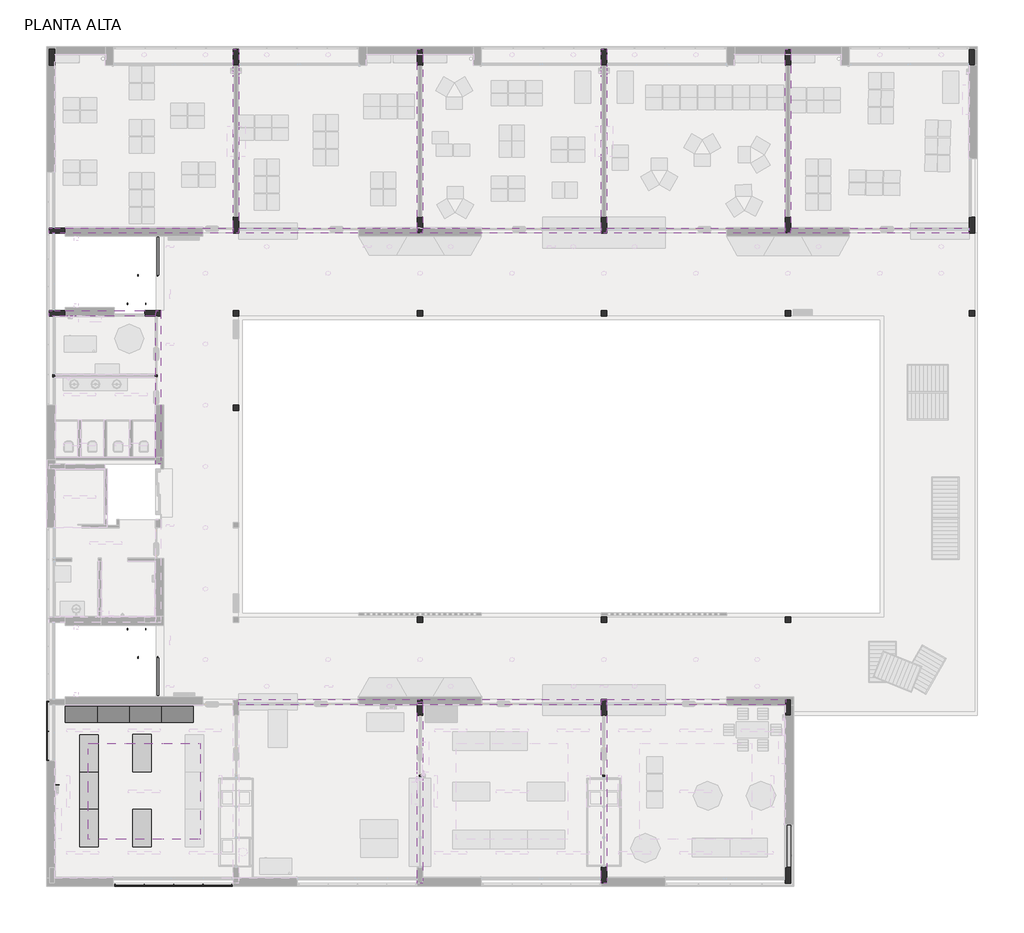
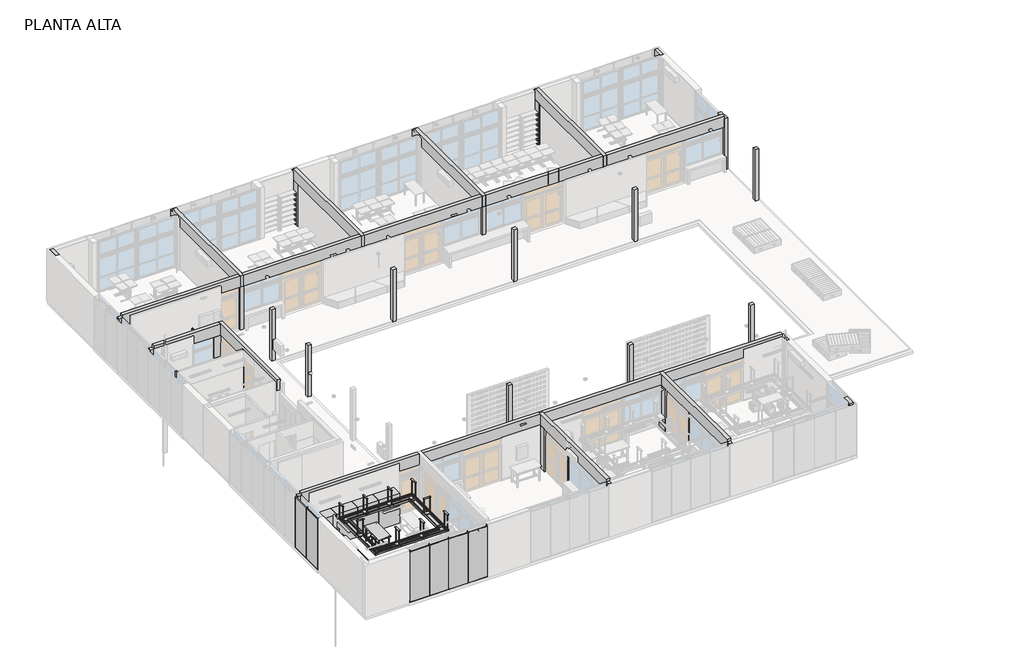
# One storey, part 9 of 14: 32 columns, 16 beams, 13 furniture elements, 8 proxies, 2 railings.
"""IFC4 building model written with IfcOpenShell, lengths in millimetres."""

from ifc_helpers import new_model, si_unit, frame, origin, place, context, project, spatial, polyline, outline, extrude, faceted_brep, transform, mapped, element, save
from components import building_element_proxy_21797a3b, building_element_proxy_06157dc2, building_element_proxy_bfe1e13b, furniture_e09c71f7, furniture_beb05811, furniture_b563ccbc, furniture_93ab70db, furniture_eb17cc9a, furniture_32bd7863, furniture_f4723014, railing_a982a51b, railing_fe686932

model = new_model("IFC4")

# Units and contexts
model_context = context("Model", 3, world=origin())
ifc_project = project(units=[si_unit("LENGTHUNIT", "METRE", prefix="MILLI")], contexts=[model_context])

# Site, building, storey
site = spatial("IfcSite", under=ifc_project)
building = spatial("IfcBuilding", under=site)
storey = spatial("IfcBuildingStorey", under=building, Name="PLANTA ALTA", Elevation=3310.0)

# Beams
placement = place(None, origin())
element("IfcBeam", 1, ObjectType="ARES-I-HA-Viga rectangular-PET : Viga-20x66cm-PET", at=placement, inside=storey, context=model_context, shape_type="Brep", body=[
    faceted_brep([(17188.7173694, 7107.5304035, 6570.0), (16988.7173694, 7107.5304035, 6570.0), (16988.7173694, 7020.2304035, 6570.0), (16988.7173694, 4560.2304035, 6570.0), (16988.7173694, 4440.2304035, 6570.0), (16988.7173694, 4240.2304035, 6570.0), (16988.7173694, 4120.2304035, 6570.0), (16988.7173694, 520.2304035, 6570.0), (17188.7173694, 520.2304035, 6570.0), (17188.7173694, 4120.2304035, 6570.0), (17188.7173694, 4240.2304035, 6570.0), (17188.7173694, 4440.2304035, 6570.0), (17188.7173694, 4560.2304035, 6570.0), (17188.7173694, 7020.2304035, 6570.0), (16988.7173694, 7107.5304035, 5910.0), (16988.7173694, 7020.2304035, 5910.0), (16988.7173694, 320.2304035, 5910.0), (16988.7173694, 320.2304035, 6410.0), (16988.7173694, 520.2304035, 6410.0), (17188.7173694, 7107.5304035, 5910.0), (17188.7173694, 7020.2304035, 5910.0), (17188.7173694, 320.2304035, 5910.0), (17188.7173694, 520.2304035, 6410.0), (17188.7173694, 320.2304035, 6410.0)], [[[0, 1, 2, 3, 4, 5, 6, 7, 8, 9, 10, 11, 12, 13]], [[14, 15, 16, 17, 18, 7, 6, 5, 4, 3, 2, 1]], [[16, 15, 14, 19, 20, 21]], [[21, 20, 19, 0, 13, 12, 11, 10, 9, 8, 22, 23]], [[0, 19, 14, 1]], [[16, 21, 23, 17]], [[22, 18, 17, 23]], [[18, 22, 8, 7]]]),
])
element("IfcBeam", 2, ObjectType="ARES-I-HA-Viga rectangular-PET : Viga-20x66cm-PET", at=placement, inside=storey, context=model_context, shape_type="Brep", body=[
    faceted_brep([(24088.7173694, 7200.2304035, 6570.0), (23888.7173694, 7200.2304035, 6570.0), (23888.7173694, 7020.2304035, 6570.0), (23888.7173694, 520.2304035, 6570.0), (24088.7173694, 520.2304035, 6570.0), (24088.7173694, 7020.2304035, 6570.0), (23888.7173694, 7200.2304035, 5910.0), (23888.7173694, 7020.2304035, 5910.0), (23888.7173694, 6620.2304035, 5910.0), (23888.7173694, 320.2304035, 5910.0), (23888.7173694, 320.2304035, 6410.0), (23888.7173694, 520.2304035, 6410.0), (24088.7173694, 7200.2304035, 5910.0), (24088.7173694, 7020.2304035, 5910.0), (24088.7173694, 6620.2304035, 5910.0), (24088.7173694, 320.2304035, 5910.0), (24088.7173694, 520.2304035, 6410.0), (24088.7173694, 320.2304035, 6410.0)], [[[0, 1, 2, 3, 4, 5]], [[6, 7, 8, 9, 10, 11, 3, 2, 1]], [[9, 8, 7, 6, 12, 13, 14, 15]], [[15, 14, 13, 12, 0, 5, 4, 16, 17]], [[9, 15, 17, 10]], [[0, 12, 6, 1]], [[16, 11, 10, 17]], [[11, 16, 4, 3]]]),
])
element("IfcBeam", 3, ObjectType="ARES-I-HA-Viga rectangular-PET : Viga-20x66cm-PET", at=placement, inside=storey, context=model_context, shape_type="Brep", body=[
    faceted_brep([(10088.7173694, 24720.2304035, 6570.0), (10288.7173694, 24720.2304035, 6570.0), (10288.7173694, 24920.2304035, 6570.0), (10288.7173694, 30600.2304035, 6570.0), (10288.7173694, 30720.2304035, 6570.0), (10288.7173694, 30920.2304035, 6570.0), (10288.7173694, 31040.2304035, 6570.0), (10288.7173694, 31420.2304035, 6570.0), (10088.7173694, 31420.2304035, 6570.0), (10088.7173694, 31040.2304035, 6570.0), (10088.7173694, 30920.2304035, 6570.0), (10088.7173694, 30720.2304035, 6570.0), (10088.7173694, 30600.2304035, 6570.0), (10088.7173694, 24920.2304035, 6570.0), (10088.7173694, 31620.2304035, 5910.0), (10088.7173694, 24920.2304035, 5910.0), (10088.7173694, 24720.2304035, 5910.0), (10088.7173694, 24720.2304035, 6410.0), (10088.7173694, 31420.2304035, 6410.0), (10088.7173694, 31430.2304035, 6410.0), (10088.7173694, 31620.2304035, 6410.0), (10288.7173694, 31620.2304035, 5910.0), (10288.7173694, 24920.2304035, 5910.0), (10288.7173694, 24720.2304035, 5910.0), (10288.7173694, 31620.2304035, 6410.0), (10288.7173694, 31430.2304035, 6410.0), (10288.7173694, 31420.2304035, 6410.0), (10288.7173694, 24720.2304035, 6410.0)], [[[0, 1, 2, 3, 4, 5, 6, 7, 8, 9, 10, 11, 12, 13]], [[14, 15, 16, 17, 0, 13, 12, 11, 10, 9, 8, 18, 19, 20]], [[16, 15, 14, 21, 22, 23]], [[23, 22, 21, 24, 25, 26, 7, 6, 5, 4, 3, 2, 1, 27]], [[1, 0, 17, 16, 23, 27]], [[21, 14, 20, 24]], [[18, 26, 25, 24, 20, 19]], [[26, 18, 8, 7]]]),
])
element("IfcBeam", 4, ObjectType="ARES-I-HA-Viga rectangular-PET : Viga-20x66cm-PET", at=placement, inside=storey, context=model_context, shape_type="Brep", body=[
    faceted_brep([(16988.7173694, 24720.2304035, 6570.0), (17188.7173694, 24720.2304035, 6570.0), (17188.7173694, 24920.2304035, 6570.0), (17188.7173694, 31420.2304035, 6570.0), (16988.7173694, 31420.2304035, 6570.0), (16988.7173694, 24920.2304035, 6570.0), (16988.7173694, 31620.2304035, 5910.0), (16988.7173694, 25320.2304035, 5910.0), (16988.7173694, 24920.2304035, 5910.0), (16988.7173694, 24720.2304035, 5910.0), (16988.7173694, 24720.2304035, 6410.0), (16988.7173694, 31420.2304035, 6410.0), (16988.7173694, 31430.2304035, 6410.0), (16988.7173694, 31440.2304035, 6410.0), (16988.7173694, 31620.2304035, 6410.0), (17188.7173694, 31620.2304035, 5910.0), (17188.7173694, 25320.2304035, 5910.0), (17188.7173694, 24920.2304035, 5910.0), (17188.7173694, 24720.2304035, 5910.0), (17188.7173694, 31620.2304035, 6410.0), (17188.7173694, 31440.2304035, 6410.0), (17188.7173694, 31430.2304035, 6410.0), (17188.7173694, 31420.2304035, 6410.0), (17188.7173694, 24720.2304035, 6410.0)], [[[0, 1, 2, 3, 4, 5]], [[6, 7, 8, 9, 10, 0, 5, 4, 11, 12, 13, 14]], [[9, 8, 7, 6, 15, 16, 17, 18]], [[18, 17, 16, 15, 19, 20, 21, 22, 3, 2, 1, 23]], [[1, 0, 10, 9, 18, 23]], [[15, 6, 14, 19]], [[11, 22, 21, 20, 19, 14, 13, 12]], [[22, 11, 4, 3]]]),
])
element("IfcBeam", 5, ObjectType="ARES-I-HA-Viga rectangular-PET : Viga-20x66cm-PET", at=placement, inside=storey, context=model_context, shape_type="Brep", body=[
    faceted_brep([(23888.7173694, 24720.2304035, 6570.0), (24088.7173694, 24720.2304035, 6570.0), (24088.7173694, 24920.2304035, 6570.0), (24088.7173694, 30600.2304035, 6570.0), (24088.7173694, 30720.2304035, 6570.0), (24088.7173694, 30920.2304035, 6570.0), (24088.7173694, 31040.2304035, 6570.0), (24088.7173694, 31420.2304035, 6570.0), (23888.7173694, 31420.2304035, 6570.0), (23888.7173694, 31040.2304035, 6570.0), (23888.7173694, 30920.2304035, 6570.0), (23888.7173694, 30720.2304035, 6570.0), (23888.7173694, 30600.2304035, 6570.0), (23888.7173694, 24920.2304035, 6570.0), (23888.7173694, 31620.2304035, 5910.0), (23888.7173694, 31020.2304035, 5910.0), (23888.7173694, 25320.2304035, 5910.0), (23888.7173694, 24920.2304035, 5910.0), (23888.7173694, 24720.2304035, 5910.0), (23888.7173694, 24720.2304035, 6410.0), (23888.7173694, 31420.2304035, 6410.0), (23888.7173694, 31430.2304035, 6410.0), (23888.7173694, 31620.2304035, 6410.0), (24088.7173694, 31620.2304035, 5910.0), (24088.7173694, 31020.2304035, 5910.0), (24088.7173694, 25320.2304035, 5910.0), (24088.7173694, 24920.2304035, 5910.0), (24088.7173694, 24720.2304035, 5910.0), (24088.7173694, 31620.2304035, 6410.0), (24088.7173694, 31430.2304035, 6410.0), (24088.7173694, 31420.2304035, 6410.0), (24088.7173694, 24720.2304035, 6410.0)], [[[0, 1, 2, 3, 4, 5, 6, 7, 8, 9, 10, 11, 12, 13]], [[14, 15, 16, 17, 18, 19, 0, 13, 12, 11, 10, 9, 8, 20, 21, 22]], [[18, 17, 16, 15, 14, 23, 24, 25, 26, 27]], [[27, 26, 25, 24, 23, 28, 29, 30, 7, 6, 5, 4, 3, 2, 1, 31]], [[1, 0, 19, 18, 27, 31]], [[23, 14, 22, 28]], [[20, 30, 29, 28, 22, 21]], [[30, 20, 8, 7]]]),
])
element("IfcBeam", 6, ObjectType="ARES-I-HA-Viga rectangular-PET : Viga-20x66cm-PET", at=placement, inside=storey, context=model_context, shape_type="Brep", body=[
    faceted_brep([(30788.7173694, 24720.2304035, 6570.0), (30988.7173694, 24720.2304035, 6570.0), (30988.7173694, 24920.2304035, 6570.0), (30988.7173694, 31420.2304035, 6570.0), (30788.7173694, 31420.2304035, 6570.0), (30788.7173694, 24920.2304035, 6570.0), (30788.7173694, 31620.2304035, 5910.0), (30788.7173694, 31020.2304035, 5910.0), (30788.7173694, 25320.2304035, 5910.0), (30788.7173694, 24920.2304035, 5910.0), (30788.7173694, 24720.2304035, 5910.0), (30788.7173694, 24720.2304035, 6410.0), (30788.7173694, 31420.2304035, 6410.0), (30788.7173694, 31430.2304035, 6410.0), (30788.7173694, 31440.2304035, 6410.0), (30788.7173694, 31620.2304035, 6410.0), (30988.7173694, 31620.2304035, 5910.0), (30988.7173694, 31020.2304035, 5910.0), (30988.7173694, 25320.2304035, 5910.0), (30988.7173694, 24920.2304035, 5910.0), (30988.7173694, 24720.2304035, 5910.0), (30988.7173694, 31620.2304035, 6410.0), (30988.7173694, 31440.2304035, 6410.0), (30988.7173694, 31430.2304035, 6410.0), (30988.7173694, 31420.2304035, 6410.0), (30988.7173694, 24720.2304035, 6410.0)], [[[0, 1, 2, 3, 4, 5]], [[6, 7, 8, 9, 10, 11, 0, 5, 4, 12, 13, 14, 15]], [[10, 9, 8, 7, 6, 16, 17, 18, 19, 20]], [[20, 19, 18, 17, 16, 21, 22, 23, 24, 3, 2, 1, 25]], [[1, 0, 11, 10, 20, 25]], [[16, 6, 15, 21]], [[12, 24, 23, 22, 21, 15, 14, 13]], [[24, 12, 4, 3]]]),
])
element("IfcBeam", 7, ObjectType="ARES-I-HA-Viga rectangular-PET : Viga-20x66cm-PET", at=placement, inside=storey, context=model_context, shape_type="Brep", body=[
    faceted_brep([(10088.7173693, 24920.2304035, 6570.0), (10088.7173693, 24720.2304035, 6570.0), (10088.7173693, 24720.2304035, 6410.0), (10088.7173693, 24720.2304035, 5910.0), (10088.7173693, 24920.2304035, 5910.0), (10088.7173693, 24920.2304035, 6410.0), (3388.7173693, 24920.2304035, 6570.0), (3388.7173693, 24720.2304035, 6570.0), (3188.7173693, 24720.2304035, 5910.0), (3788.7173693, 24720.2304035, 5910.0), (8938.7173694, 24720.2304035, 5910.0), (3388.7173693, 24720.2304035, 6410.0), (3188.7173693, 24720.2304035, 6410.0), (3188.7173693, 24920.2304035, 5910.0), (3788.7173693, 24920.2304035, 5910.0), (8938.7173694, 24920.2304035, 5910.0), (3188.7173693, 24920.2304035, 6410.0), (3388.7173693, 24920.2304035, 6410.0)], [[[0, 1, 2, 3, 4, 5]], [[1, 0, 6, 7]], [[8, 9, 10, 3, 2, 1, 7, 11, 12]], [[4, 3, 10, 9, 8, 13, 14, 15]], [[4, 15, 14, 13, 16, 17, 6, 0, 5]], [[13, 8, 12, 16]], [[11, 17, 16, 12]], [[17, 11, 7, 6]]]),
])
element("IfcBeam", 8, ObjectType="ARES-I-HA-Viga rectangular-PET : Viga-20x66cm-PET", at=placement, inside=storey, context=model_context, shape_type="Brep", body=[
    faceted_brep([(16988.7173694, 24920.2304035, 6570.0), (16988.7173694, 24720.2304035, 6570.0), (16988.7173694, 24720.2304035, 6410.0), (16988.7173694, 24720.2304035, 5910.0), (16988.7173694, 24920.2304035, 5910.0), (16988.7173694, 24920.2304035, 6410.0), (10288.7173694, 24920.2304035, 5910.0), (10288.7173694, 24720.2304035, 5910.0), (10288.7173694, 24720.2304035, 6410.0), (10288.7173694, 24720.2304035, 6570.0), (10288.7173694, 24920.2304035, 6570.0), (10288.7173694, 24920.2304035, 6410.0)], [[[0, 1, 2, 3, 4, 5]], [[6, 7, 8, 9, 10, 11]], [[1, 0, 10, 9]], [[1, 9, 8, 7, 3, 2]], [[4, 3, 7, 6]], [[10, 0, 5, 4, 6, 11]]]),
])
element("IfcBeam", 9, ObjectType="ARES-I-HA-Viga rectangular-PET : Viga-20x66cm-PET", at=placement, inside=storey, context=model_context, shape_type="Brep", body=[
    faceted_brep([(23888.7173694, 24920.2304035, 6570.0), (23888.7173694, 24720.2304035, 6570.0), (23888.7173694, 24720.2304035, 6410.0), (23888.7173694, 24720.2304035, 5910.0), (23888.7173694, 24920.2304035, 5910.0), (23888.7173694, 24920.2304035, 6410.0), (17188.7173694, 24920.2304035, 5910.0), (17188.7173694, 24720.2304035, 5910.0), (17188.7173694, 24720.2304035, 6410.0), (17188.7173694, 24720.2304035, 6570.0), (17188.7173694, 24920.2304035, 6570.0), (17188.7173694, 24920.2304035, 6410.0)], [[[0, 1, 2, 3, 4, 5]], [[6, 7, 8, 9, 10, 11]], [[1, 0, 10, 9]], [[1, 9, 8, 7, 3, 2]], [[4, 3, 7, 6]], [[10, 0, 5, 4, 6, 11]]]),
])
element("IfcBeam", 10, ObjectType="ARES-I-HA-Viga rectangular-PET : Viga-20x66cm-PET", at=placement, inside=storey, context=model_context, shape_type="Brep", body=[
    faceted_brep([(30788.7173693, 24920.2304035, 6570.0), (30788.7173693, 24720.2304035, 6570.0), (30788.7173693, 24720.2304035, 6410.0), (30788.7173693, 24720.2304035, 5910.0), (30788.7173693, 24920.2304035, 5910.0), (30788.7173693, 24920.2304035, 6410.0), (24088.7173693, 24920.2304035, 5910.0), (24088.7173693, 24720.2304035, 5910.0), (24088.7173693, 24720.2304035, 6410.0), (24088.7173693, 24720.2304035, 6570.0), (24088.7173693, 24920.2304035, 6570.0), (24088.7173693, 24920.2304035, 6410.0)], [[[0, 1, 2, 3, 4, 5]], [[6, 7, 8, 9, 10, 11]], [[1, 0, 10, 9]], [[1, 9, 8, 7, 3, 2]], [[4, 3, 7, 6]], [[10, 0, 5, 4, 6, 11]]]),
])
element("IfcBeam", 11, ObjectType="ARES-I-HA-Viga rectangular-PET : Viga-20x66cm-PET", at=placement, inside=storey, context=model_context, shape_type="Brep", body=[
    faceted_brep([(30988.7173693, 24920.2304035, 5910.0), (30988.7173693, 24720.2304035, 5910.0), (30988.7173693, 24720.2304035, 6410.0), (30988.7173693, 24720.2304035, 6570.0), (30988.7173693, 24920.2304035, 6570.0), (30988.7173693, 24920.2304035, 6410.0), (37688.7173693, 24720.2304035, 6570.0), (37688.7173693, 24920.2304035, 6570.0), (37688.7173693, 24720.2304035, 5910.0), (37688.7173693, 24720.2304035, 6410.0), (37688.7173693, 24920.2304035, 5910.0), (37688.7173693, 24920.2304035, 6410.0)], [[[0, 1, 2, 3, 4, 5]], [[4, 3, 6, 7]], [[1, 8, 9, 6, 3, 2]], [[1, 0, 10, 8]], [[7, 11, 10, 0, 5, 4]], [[8, 10, 11, 7, 6, 9]]]),
])
element("IfcBeam", 12, ObjectType="ARES-I-HA-Viga rectangular-PET : Viga-20x66cm-PET", at=placement, inside=storey, context=model_context, shape_type="Brep", body=[
    faceted_brep([(30801.4173693, 7020.2304035, 5910.0), (30801.4173693, 7220.2304035, 5910.0), (30801.4173693, 7220.2304035, 6410.0), (30801.4173693, 7020.2304035, 6410.0), (24088.7173694, 7020.2304035, 6570.0), (30788.7173693, 7020.2304035, 6570.0), (30788.7173693, 7220.2304035, 6570.0), (10288.7173694, 7220.2304035, 6570.0), (10288.7173694, 7020.2304035, 6570.0), (16988.7173694, 7020.2304035, 6570.0), (16988.7173694, 7107.5304035, 6570.0), (17188.7173694, 7107.5304035, 6570.0), (17188.7173694, 7020.2304035, 6570.0), (23888.7173694, 7020.2304035, 6570.0), (23888.7173694, 7200.2304035, 6570.0), (24088.7173694, 7200.2304035, 6570.0), (24088.7173694, 7020.2304035, 5910.0), (28588.7173694, 7020.2304035, 5910.0), (30788.7173693, 7020.2304035, 5910.0), (30788.7173693, 7020.2304035, 6410.0), (24088.7173694, 7020.2304035, 6410.0), (24088.7173694, 7200.2304035, 5910.0), (23888.7173694, 7200.2304035, 5910.0), (23888.7173694, 7020.2304035, 5910.0), (17188.7173694, 7020.2304035, 5910.0), (17188.7173694, 7107.5304035, 5910.0), (16988.7173694, 7107.5304035, 5910.0), (16988.7173694, 7020.2304035, 5910.0), (10288.7173694, 7020.2304035, 5910.0), (10288.7173694, 7220.2304035, 5910.0), (16988.7173694, 7220.2304035, 5910.0), (17188.7173694, 7220.2304035, 5910.0), (23888.7173694, 7220.2304035, 5910.0), (24088.7173694, 7220.2304035, 5910.0), (28588.7173694, 7220.2304035, 5910.0), (30788.7173693, 7220.2304035, 5910.0), (30788.7173693, 7220.2304035, 6410.0), (10288.7173694, 7020.2304035, 6410.0), (16988.7173694, 7020.2304035, 6410.0), (17188.7173694, 7020.2304035, 6410.0), (23888.7173694, 7020.2304035, 6410.0)], [[[0, 1, 2, 3]], [[4, 5, 6, 7, 8, 9, 10, 11, 12, 13, 14, 15]], [[16, 17, 18, 0, 3, 19, 5, 4, 20]], [[1, 0, 18, 17, 16, 21, 22, 23, 24, 25, 26, 27, 28, 29, 30, 31, 32, 33, 34, 35]], [[1, 35, 34, 33, 32, 31, 30, 29, 7, 6, 36, 2]], [[28, 37, 8, 7, 29]], [[26, 10, 9, 38, 27]], [[11, 25, 24, 39, 12]], [[10, 26, 25, 11]], [[22, 14, 13, 40, 23]], [[15, 21, 16, 20, 4]], [[14, 22, 21, 15]], [[36, 19, 3, 2]], [[19, 36, 6, 5]], [[8, 37, 28, 27, 38, 9]], [[24, 23, 40, 13, 12, 39]]]),
    faceted_brep([(10088.7173694, 7020.2304035, 6570.0), (10088.7173694, 7020.2304035, 6410.0), (10088.7173694, 7020.2304035, 5910.0), (10088.7173694, 7220.2304035, 5910.0), (10088.7173694, 7220.2304035, 6570.0), (3188.7173693, 7020.2304035, 5910.0), (3788.7173693, 7020.2304035, 5910.0), (8938.7173694, 7020.2304035, 5910.0), (3388.7173693, 7020.2304035, 6570.0), (3388.7173693, 7020.2304035, 6410.0), (3188.7173693, 7020.2304035, 6410.0), (3188.7173693, 7220.2304035, 5910.0), (3788.7173693, 7220.2304035, 5910.0), (8938.7173694, 7220.2304035, 5910.0), (3188.7173693, 7220.2304035, 6410.0), (3388.7173693, 7220.2304035, 6410.0), (3388.7173693, 7220.2304035, 6570.0)], [[[0, 1, 2, 3, 4]], [[5, 6, 7, 2, 1, 0, 8, 9, 10]], [[2, 7, 6, 5, 11, 12, 13, 3]], [[3, 13, 12, 11, 14, 15, 16, 4]], [[11, 5, 10, 14]], [[9, 15, 14, 10]], [[15, 9, 8, 16]], [[8, 0, 4, 16]]]),
])
element("IfcBeam", 13, ObjectType="ARES-I-HA-Viga rectangular-PET : Viga-20x66cm-PET", at=placement, inside=storey, context=model_context, shape_type="Brep", body=[
    faceted_brep([(7368.7173693, 21820.2304035, 6570.0), (7168.7173693, 21820.2304035, 6570.0), (7168.7173693, 21620.2304035, 6570.0), (7168.7173693, 16070.2304035, 6570.0), (7368.7173693, 16070.2304035, 6570.0), (7168.7173693, 21820.2304035, 6410.0), (7168.7173693, 21820.2304035, 5910.0), (7168.7173693, 21620.2304035, 5910.0), (7168.7173693, 18270.2304035, 5910.0), (7168.7173693, 16310.2304035, 5910.0), (7168.7173693, 16070.2304035, 5910.0), (7168.7173693, 16070.2304035, 6410.0), (7368.7173693, 21820.2304035, 5910.0), (7368.7173693, 18270.2304035, 5910.0), (7368.7173693, 16310.2304035, 5910.0), (7368.7173693, 16070.2304035, 5910.0), (7368.7173693, 21820.2304035, 6410.0)], [[[0, 1, 2, 3, 4]], [[1, 5, 6, 7, 8, 9, 10, 11, 3, 2]], [[6, 12, 13, 14, 15, 10, 9, 8, 7]], [[12, 16, 0, 4, 15, 14, 13]], [[1, 0, 16, 12, 6, 5]], [[4, 3, 11, 10, 15]]]),
])
element("IfcBeam", 14, ObjectType="ARES-I-HA-Viga rectangular-PET : Viga-20x66cm-PET", at=placement, inside=storey, context=model_context, shape_type="Brep", body=[
    faceted_brep([(7168.7173693, 21820.2304035, 6570.0), (3388.7173693, 21820.2304035, 6570.0), (3388.7173693, 21620.2304035, 6570.0), (3748.7173693, 21620.2304035, 6570.0), (3868.7173693, 21620.2304035, 6570.0), (4068.7173693, 21620.2304035, 6570.0), (4188.7173693, 21620.2304035, 6570.0), (7168.7173693, 21620.2304035, 6570.0), (7168.7173693, 21620.2304035, 5910.0), (7168.7173693, 21620.2304035, 6410.0), (3388.7173693, 21620.2304035, 6410.0), (3188.7173693, 21620.2304035, 6410.0), (3188.7173693, 21620.2304035, 5910.0), (3788.7173693, 21620.2304035, 5910.0), (5618.7173693, 21620.2304035, 5910.0), (3188.7173693, 21820.2304035, 5910.0), (3788.7173693, 21820.2304035, 5910.0), (5618.7173693, 21820.2304035, 5910.0), (7168.7173693, 21820.2304035, 5910.0), (3188.7173693, 21820.2304035, 6410.0), (3388.7173693, 21820.2304035, 6410.0)], [[[0, 1, 2, 3, 4, 5, 6, 7]], [[8, 9, 7, 6, 5, 4, 3, 2, 10, 11, 12, 13, 14]], [[8, 14, 13, 12, 15, 16, 17, 18]], [[0, 18, 17, 16, 15, 19, 20, 1]], [[7, 9, 8, 18, 0]], [[15, 12, 11, 19]], [[10, 20, 19, 11]], [[20, 10, 2, 1]]]),
])
element("IfcBeam", 15, ObjectType="ARES-I-HA-Viga rectangular-PET : Viga-20x66cm-PET", at=placement, inside=storey, context=model_context, shape_type="Brep", body=[
    faceted_brep([(30988.7173693, 7220.0804035, 3100.0), (30788.7173693, 7220.0804035, 3100.0), (30788.7173693, 7220.0804035, 3260.0), (30788.7173693, 7220.0804035, 3760.0), (30988.7173693, 7220.0804035, 3760.0), (30988.7173693, 7220.0804035, 3260.0), (30788.7173693, 6620.2304035, 3760.0), (30788.7173693, 2520.2304035, 3760.0), (30788.7173693, 520.2304035, 3760.0), (30988.7173693, 520.2304035, 3760.0), (30988.7173693, 2520.2304035, 3760.0), (30988.7173693, 6620.2304035, 3760.0), (30788.7173693, 7020.2304035, 3100.0), (30788.7173693, 6620.2304035, 3100.0), (30788.7173693, 920.2304035, 3100.0), (30788.7173693, 520.2304035, 3100.0), (30788.7173693, 520.2304035, 3260.0), (30988.7173693, 6620.2304035, 3100.0), (30988.7173693, 920.2304035, 3100.0), (30988.7173693, 520.2304035, 3100.0), (30988.7173693, 520.2304035, 3260.0)], [[[0, 1, 2, 3, 4, 5]], [[4, 3, 6, 7, 8, 9, 10, 11]], [[8, 7, 6, 3, 2, 1, 12, 13, 14, 15, 16]], [[1, 0, 17, 18, 19, 15, 14, 13, 12]], [[19, 18, 17, 0, 5, 4, 11, 10, 9, 20]], [[15, 19, 20, 9, 8, 16]]]),
])
element("IfcBeam", 16, ObjectType="ARES-I-HA-Viga rectangular-PET : Viga-8x18cm-PET", at=placement, inside=storey, context=model_context, shape_type="Brep", body=[
    faceted_brep([(6113.9673694, 18890.2304035, 4080.0), (6113.9673694, 18810.2304035, 4080.0), (6113.9673694, 18810.2304035, 3900.0), (6113.9673694, 18890.2304035, 3900.0), (3713.5673694, 18890.2304035, 4080.0), (3713.5673694, 18890.2304035, 3900.0), (3713.5673694, 18810.2304035, 3900.0), (3713.5673694, 18810.2304035, 4080.0), (6113.7173694, 18890.2304035, 4080.0), (5993.7173694, 18890.2304035, 4080.0), (3833.8731174, 18890.2304035, 4080.0), (3713.8731174, 18890.2304035, 4080.0), (6113.7173694, 18810.2304035, 4080.0)], [[[0, 1, 2, 3]], [[4, 5, 6, 7]], [[1, 0, 8, 9, 10, 11, 4, 7, 12]], [[2, 1, 12, 7, 6]], [[3, 2, 6, 5]], [[0, 3, 5, 4, 11, 10, 9, 8]]]),
])

# Proxies
building_element_proxy_shape = building_element_proxy_21797a3b(model_context)
element("IfcBuildingElementProxy", 17, Name="Soporte - Metal  : Soporte - Metal ", ObjectType="Soporte - Metal  : Soporte - Metal ", at=placement, inside=storey, context=model_context, shape_type="MappedRepresentation", body=[
    mapped(building_element_proxy_shape, transform((6118.971565, 9845.2304035, 3544.4794604), x_axis=(1.0, 0.0, 0.0), y_axis=(0.0, 1.0, 0.0), z_axis=(0.0, 0.0, 1.0))),
])
element("IfcBuildingElementProxy", 18, Name="Soporte - Metal  : Soporte - Metal ", ObjectType="Soporte - Metal  : Soporte - Metal ", at=placement, inside=storey, context=model_context, shape_type="MappedRepresentation", body=[
    mapped(building_element_proxy_shape, transform((6510.600836, 8825.2304035, 3783.0317031), x_axis=(-1.0, 0.0, 0.0), y_axis=(0.0, -1.0, 0.0), z_axis=(0.0, 0.0, 1.0))),
])
element("IfcBuildingElementProxy", 19, Name="Soporte - Metal  : Soporte - Metal ", ObjectType="Soporte - Metal  : Soporte - Metal ", at=placement, inside=storey, context=model_context, shape_type="MappedRepresentation", body=[
    mapped(building_element_proxy_shape, transform((6118.971565, 22095.2304035, 3544.4794604), x_axis=(-1.0, -1.2854314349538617e-12, 0.0), y_axis=(1.2854314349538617e-12, -1.0, 0.0), z_axis=(0.0, 0.0, 1.0))),
])
element("IfcBuildingElementProxy", 20, Name="Soporte - Metal  : Soporte - Metal ", ObjectType="Soporte - Metal  : Soporte - Metal ", at=placement, inside=storey, context=model_context, shape_type="MappedRepresentation", body=[
    mapped(building_element_proxy_shape, transform((6510.600836, 23115.2304035, 3783.0317031), x_axis=(1.0, 1.2867009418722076e-12, 0.0), y_axis=(-1.2867009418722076e-12, 1.0, 0.0), z_axis=(0.0, 0.0, 1.0))),
])
building_element_proxy_2_shape = building_element_proxy_06157dc2(model_context)
element("IfcBuildingElementProxy", 21, Name="Soporte - Metal  : Soporte - Metal ", ObjectType="Soporte - Metal  : Soporte - Metal ", at=placement, inside=storey, context=model_context, shape_type="MappedRepresentation", body=[
    mapped(building_element_proxy_2_shape, transform((6802.1992674, 9845.2304035, 3960.6523892), x_axis=(1.0, 0.0, 0.0), y_axis=(0.0, 1.0, 0.0), z_axis=(0.0, 0.0, 1.0))),
])
element("IfcBuildingElementProxy", 22, Name="Soporte - Metal  : Soporte - Metal ", ObjectType="Soporte - Metal  : Soporte - Metal ", at=placement, inside=storey, context=model_context, shape_type="MappedRepresentation", body=[
    mapped(building_element_proxy_2_shape, transform((6802.1992674, 22095.2304035, 3960.6523892), x_axis=(-1.0, -1.2854314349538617e-12, 0.0), y_axis=(1.2854314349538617e-12, -1.0, 0.0), z_axis=(0.0, 0.0, 1.0))),
])
building_element_proxy_3_shape = building_element_proxy_bfe1e13b(model_context)
element("IfcBuildingElementProxy", 23, Name="Soporte - Metal  : Soporte - Metal ", ObjectType="Soporte - Metal  : Soporte - Metal ", at=placement, inside=storey, context=model_context, shape_type="MappedRepresentation", body=[
    mapped(building_element_proxy_3_shape, transform((7245.292264, 8825.2304035, 4015.7894737), x_axis=(-1.0, 0.0, 0.0), y_axis=(0.0, -1.0, 0.0), z_axis=(0.0, 0.0, 1.0))),
])
element("IfcBuildingElementProxy", 24, Name="Soporte - Metal  : Soporte - Metal ", ObjectType="Soporte - Metal  : Soporte - Metal ", at=placement, inside=storey, context=model_context, shape_type="MappedRepresentation", body=[
    mapped(building_element_proxy_3_shape, transform((7245.292264, 23115.2304035, 4015.7894737), x_axis=(1.0, 1.2705640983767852e-12, 0.0), y_axis=(-1.2705640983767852e-12, 1.0, 0.0), z_axis=(0.0, 0.0, 1.0))),
])

# Columns
element("IfcColumn", 25, ObjectType="Parante aluminio : Parante aluminio 75x75 mm", at=placement, inside=storey, context=model_context, shape_type="SweptSolid", body=[
    extrude(outline(polyline([(17051.2173693, 4395.2304035), (17126.2173693, 4395.2304035), (17126.2173693, 4320.2304035), (17051.2173693, 4320.2304035), (17051.2173693, 4395.2304035)])), frame((0.0, 0.0, 3310.0), z_axis=(0.0, 0.0, 1.0), x_axis=(1.0, 0.0, 0.0)), (0.0, 0.0, 1.0), 2650.0),
])
element("IfcColumn", 26, ObjectType="Parante aluminio : Parante aluminio 75x75 mm", at=placement, inside=storey, context=model_context, shape_type="SweptSolid", body=[
    extrude(outline(polyline([(23951.2173693, 4395.2304035), (24026.2173693, 4395.2304035), (24026.2173693, 4320.2304035), (23951.2173693, 4320.2304035), (23951.2173693, 4395.2304035)])), frame((0.0, 0.0, 3310.0), z_axis=(0.0, 0.0, 1.0), x_axis=(1.0, 0.0, 0.0)), (0.0, 0.0, 1.0), 2650.0),
])
element("IfcColumn", 27, ObjectType="Parante aluminio : Parante aluminio 100x100 mm", at=placement, inside=storey, context=model_context, shape_type="Brep", body=[
    faceted_brep([(7234.7173694, 19420.2304035, 3310.0), (7234.7173694, 19320.2304035, 3310.0), (7134.7173694, 19320.2304035, 3310.0), (7134.7173694, 19420.2304035, 3310.0), (7234.7173694, 19420.2304035, 6410.0), (7234.7173694, 19320.2304035, 6410.0), (7163.7173694, 19320.2304035, 6410.0), (7158.7173694, 19320.2304035, 6410.0), (7134.7173694, 19320.2304035, 6410.0), (7134.7173694, 19320.2304035, 6400.0), (7134.7173694, 19410.2304035, 6410.0), (7134.7173694, 19420.2304035, 6410.0), (7134.7173694, 19420.2304035, 6400.0)], [[[0, 1, 2, 3]], [[4, 5, 1, 0]], [[5, 6, 7, 8, 9, 2, 1]], [[8, 10, 11, 12, 3, 2, 9]], [[11, 4, 0, 3, 12]], [[4, 11, 10, 8, 7, 6, 5]]]),
])
element("IfcColumn", 28, ObjectType="Parante aluminio : Parante aluminio 100x100 mm", at=placement, inside=storey, context=model_context, shape_type="Brep", body=[
    faceted_brep([(3408.7173694, 19420.2304035, 3310.0), (3408.7173694, 19320.2304035, 3310.0), (3308.7173694, 19320.2304035, 3310.0), (3308.7173694, 19420.2304035, 3310.0), (3408.7173694, 19420.2304035, 6420.0), (3408.7173694, 19320.2304035, 6420.0), (3408.7173694, 19320.2304035, 6410.0), (3408.7173694, 19320.2304035, 6400.0), (3408.7173694, 19420.2304035, 6400.0), (3308.7173694, 19320.2304035, 6420.0), (3308.7173694, 19420.2304035, 6420.0)], [[[0, 1, 2, 3]], [[4, 5, 6, 7, 1, 0, 8]], [[5, 9, 2, 1, 7, 6]], [[9, 10, 3, 2]], [[10, 4, 8, 0, 3]], [[4, 10, 9, 5]]]),
])
element("IfcColumn", 29, ObjectType="PIES-RECT-HA-PET : Pilar HA-20x20cm-PET", at=placement, inside=storey, context=model_context, shape_type="SweptSolid", body=[
    extrude(outline(polyline([(17188.7173694, 21820.2304035), (17188.7173694, 21620.2304035), (16988.7173694, 21620.2304035), (16988.7173694, 21820.2304035), (17188.7173694, 21820.2304035)])), frame((0.0, 0.0, 3260.0), z_axis=(0.0, 0.0, 1.0), x_axis=(1.0, 0.0, 0.0)), (0.0, 0.0, 1.0), 3150.0),
])
element("IfcColumn", 30, ObjectType="PIES-RECT-HA-PET : Pilar HA-20x20cm-PET", at=placement, inside=storey, context=model_context, shape_type="SweptSolid", body=[
    extrude(outline(polyline([(24088.7173694, 21820.2304035), (24088.7173694, 21620.2304035), (23888.7173694, 21620.2304035), (23888.7173694, 21820.2304035), (24088.7173694, 21820.2304035)])), frame((0.0, 0.0, 3260.0), z_axis=(0.0, 0.0, 1.0), x_axis=(1.0, 0.0, 0.0)), (0.0, 0.0, 1.0), 3150.0),
])
element("IfcColumn", 31, ObjectType="PIES-RECT-HA-PET : Pilar HA-20x20cm-PET", at=placement, inside=storey, context=model_context, shape_type="SweptSolid", body=[
    extrude(outline(polyline([(30988.7173693, 21820.2304035), (30988.7173693, 21620.2304035), (30788.7173693, 21620.2304035), (30788.7173693, 21820.2304035), (30988.7173693, 21820.2304035)])), frame((0.0, 0.0, 3260.0), z_axis=(0.0, 0.0, 1.0), x_axis=(1.0, 0.0, 0.0)), (0.0, 0.0, 1.0), 3150.0),
])
element("IfcColumn", 32, ObjectType="PIES-RECT-HA-PET : Pilar HA-20x20cm-PET", at=placement, inside=storey, context=model_context, shape_type="SweptSolid", body=[
    extrude(outline(polyline([(17188.7173694, 10320.2304035), (17188.7173694, 10120.2304035), (16988.7173694, 10120.2304035), (16988.7173694, 10320.2304035), (17188.7173694, 10320.2304035)])), frame((0.0, 0.0, 3260.0), z_axis=(0.0, 0.0, 1.0), x_axis=(1.0, 0.0, 0.0)), (0.0, 0.0, 1.0), 3150.0),
])
element("IfcColumn", 33, ObjectType="PIES-RECT-HA-PET : Pilar HA-20x20cm-PET", at=placement, inside=storey, context=model_context, shape_type="SweptSolid", body=[
    extrude(outline(polyline([(24088.7173694, 10320.2304035), (24088.7173694, 10120.2304035), (23888.7173694, 10120.2304035), (23888.7173694, 10320.2304035), (24088.7173694, 10320.2304035)])), frame((0.0, 0.0, 3260.0), z_axis=(0.0, 0.0, 1.0), x_axis=(1.0, 0.0, 0.0)), (0.0, 0.0, 1.0), 3150.0),
])
element("IfcColumn", 34, ObjectType="PIES-RECT-HA-PET : Pilar HA-20x20cm-PET", at=placement, inside=storey, context=model_context, shape_type="SweptSolid", body=[
    extrude(outline(polyline([(30988.7173693, 10320.2304035), (30988.7173693, 10120.2304035), (30788.7173693, 10120.2304035), (30788.7173693, 10320.2304035), (30988.7173693, 10320.2304035)])), frame((0.0, 0.0, 3260.0), z_axis=(0.0, 0.0, 1.0), x_axis=(1.0, 0.0, 0.0)), (0.0, 0.0, 1.0), 3150.0),
])
element("IfcColumn", 35, ObjectType="PIES-RECT-HA-PET : Pilar HA-20x20cm-PET", at=placement, inside=storey, context=model_context, shape_type="SweptSolid", body=[
    extrude(outline(polyline([(10288.7173693, 21820.2304035), (10288.7173693, 21620.2304035), (10088.7173693, 21620.2304035), (10088.7173693, 21820.2304035), (10288.7173693, 21820.2304035)])), frame((0.0, 0.0, 3260.0), z_axis=(0.0, 0.0, 1.0), x_axis=(1.0, 0.0, 0.0)), (0.0, 0.0, 1.0), 3150.0),
])
element("IfcColumn", 36, ObjectType="PIES-RECT-HA-PET : Pilar HA-20x20cm-PET", at=placement, inside=storey, context=model_context, shape_type="SweptSolid", body=[
    extrude(outline(polyline([(37888.7173693, 21820.2304035), (37888.7173693, 21620.2304035), (37688.7173693, 21620.2304035), (37688.7173693, 21820.2304035), (37888.7173693, 21820.2304035)])), frame((0.0, 0.0, 3260.0), z_axis=(0.0, 0.0, 1.0), x_axis=(1.0, 0.0, 0.0)), (0.0, 0.0, 1.0), 3150.0),
])
element("IfcColumn", 37, ObjectType="PIES-RECT-HA-PET : Pilar HA-20x20cm-PET", at=placement, inside=storey, context=model_context, shape_type="SweptSolid", body=[
    extrude(outline(polyline([(10288.7173693, 18270.2304035), (10288.7173693, 18070.2304035), (10088.7173693, 18070.2304035), (10088.7173693, 18270.2304035), (10288.7173693, 18270.2304035)])), frame((0.0, 0.0, 3260.0), z_axis=(0.0, 0.0, 1.0), x_axis=(1.0, 0.0, 0.0)), (0.0, 0.0, 1.0), 3150.0),
])
element("IfcColumn", 38, ObjectType="PIES-RECT-HA-PET : Pilar HA-20x60cm-PET", at=placement, inside=storey, context=model_context, shape_type="Brep", body=[
    faceted_brep([(30988.7173693, 920.2304035, 6410.0), (30788.7173693, 920.2304035, 6410.0), (30788.7173693, 520.2304035, 6410.0), (30788.7173693, 320.2304035, 6410.0), (30988.7173693, 320.2304035, 6410.0), (30988.7173693, 920.2304035, 3760.0), (30988.7173693, 520.2304035, 3760.0), (30988.7173693, 320.2304035, 3760.0), (30788.7173693, 320.2304035, 3760.0), (30788.7173693, 920.2304035, 3760.0)], [[[0, 1, 2, 3, 4]], [[5, 6, 7, 8, 9]], [[1, 0, 5, 9]], [[3, 2, 1, 9, 8]], [[4, 3, 8, 7]], [[0, 4, 7, 6, 5]]]),
])
element("IfcColumn", 39, ObjectType="PIES-RECT-HA-PET : Pilar HA-20x60cm-PET", at=placement, inside=storey, context=model_context, shape_type="Brep", body=[
    faceted_brep([(17188.7173694, 7220.2304035, 5910.0), (16988.7173694, 7220.2304035, 5910.0), (16988.7173694, 7030.2304035, 5910.0), (16988.7173694, 6620.2304035, 5910.0), (17188.7173694, 6620.2304035, 5910.0), (17188.7173694, 7030.2304035, 5910.0), (17188.7173694, 7220.2304035, 3260.0), (17188.7173694, 7020.2304035, 3260.0), (17188.7173694, 6620.2304035, 3260.0), (16988.7173694, 6620.2304035, 3260.0), (16988.7173694, 7020.2304035, 3260.0), (16988.7173694, 7220.2304035, 3260.0)], [[[0, 1, 2, 3, 4, 5]], [[6, 7, 8, 9, 10, 11]], [[1, 0, 6, 11]], [[3, 2, 1, 11, 10, 9]], [[4, 3, 9, 8]], [[0, 5, 4, 8, 7, 6]]]),
])
element("IfcColumn", 40, ObjectType="PIES-RECT-HA-PET : Pilar HA-20x60cm-PET", at=placement, inside=storey, context=model_context, shape_type="SweptSolid", body=[
    extrude(outline(polyline([(10288.7173694, 25320.2304035), (10288.7173694, 24720.2304035), (10088.7173694, 24720.2304035), (10088.7173694, 25320.2304035), (10288.7173694, 25320.2304035)])), frame((0.0, 0.0, 3260.0), z_axis=(0.0, 0.0, 1.0), x_axis=(1.0, 0.0, 0.0)), (0.0, 0.0, 1.0), 2650.0),
])
element("IfcColumn", 41, ObjectType="PIES-RECT-HA-PET : Pilar HA-20x60cm-PET", at=placement, inside=storey, context=model_context, shape_type="SweptSolid", body=[
    extrude(outline(polyline([(17188.7173693, 31620.2304035), (17188.7173693, 31020.2304035), (16988.7173693, 31020.2304035), (16988.7173693, 31620.2304035), (17188.7173693, 31620.2304035)])), frame((0.0, 0.0, 3260.0), z_axis=(0.0, 0.0, 1.0), x_axis=(1.0, 0.0, 0.0)), (0.0, 0.0, 1.0), 2650.0),
])
element("IfcColumn", 42, ObjectType="PIES-RECT-HA-PET : Pilar HA-20x60cm-PET", at=placement, inside=storey, context=model_context, shape_type="SweptSolid", body=[
    extrude(outline(polyline([(10288.7173694, 31620.2304035), (10288.7173694, 31020.2304035), (10088.7173694, 31020.2304035), (10088.7173694, 31620.2304035), (10288.7173694, 31620.2304035)])), frame((0.0, 0.0, 3260.0), z_axis=(0.0, 0.0, 1.0), x_axis=(1.0, 0.0, 0.0)), (0.0, 0.0, 1.0), 2650.0),
])
element("IfcColumn", 43, ObjectType="PIES-RECT-HA-PET : Pilar HA-20x60cm-PET", at=placement, inside=storey, context=model_context, shape_type="SweptSolid", body=[
    extrude(outline(polyline([(3388.7173693, 31620.2304035), (3388.7173693, 31020.2304035), (3188.7173693, 31020.2304035), (3188.7173693, 31620.2304035), (3388.7173693, 31620.2304035)])), frame((0.0, 0.0, 3260.0), z_axis=(0.0, 0.0, 1.0), x_axis=(1.0, 0.0, 0.0)), (0.0, 0.0, 1.0), 3150.0),
])
element("IfcColumn", 44, ObjectType="PIES-RECT-HA-PET : Pilar HA-20x60cm-PET", at=placement, inside=storey, context=model_context, shape_type="SweptSolid", body=[
    extrude(outline(polyline([(37888.7173693, 31620.2304035), (37888.7173693, 31020.2304035), (37688.7173693, 31020.2304035), (37688.7173693, 31620.2304035), (37888.7173693, 31620.2304035)])), frame((0.0, 0.0, 3260.0), z_axis=(0.0, 0.0, 1.0), x_axis=(1.0, 0.0, 0.0)), (0.0, 0.0, 1.0), 3150.0),
])
element("IfcColumn", 45, ObjectType="PIES-RECT-HA-PET : Pilar HA-20x60cm-PET", at=placement, inside=storey, context=model_context, shape_type="Brep", body=[
    faceted_brep([(30988.7173693, 7220.2304035, 6410.0), (30788.7173693, 7220.2304035, 6410.0), (30788.7173693, 7020.2304035, 6410.0), (30788.7173693, 7005.2304035, 6410.0), (30788.7173693, 6620.2304035, 6410.0), (30988.7173693, 6620.2304035, 6410.0), (30988.7173693, 7005.2304035, 6410.0), (30988.7173693, 7220.2304035, 3760.0), (30988.7173693, 6620.2304035, 3760.0), (30788.7173693, 6620.2304035, 3760.0), (30788.7173693, 7220.2304035, 3760.0), (30788.7173693, 7220.2304035, 5910.0)], [[[0, 1, 2, 3, 4, 5, 6]], [[7, 8, 9, 10]], [[1, 0, 7, 10, 11]], [[4, 3, 2, 1, 11, 10, 9]], [[5, 4, 9, 8]], [[0, 6, 5, 8, 7]]]),
])
element("IfcColumn", 46, ObjectType="PIES-RECT-HA-PET : Pilar HA-20x60cm-PET", at=placement, inside=storey, context=model_context, shape_type="Brep", body=[
    faceted_brep([(24088.7173694, 920.2304035, 5910.0), (23888.7173694, 920.2304035, 5910.0), (23888.7173694, 320.2304035, 5910.0), (24088.7173694, 320.2304035, 5910.0), (24088.7173694, 920.2304035, 3260.0), (24088.7173694, 535.2304035, 3260.0), (24088.7173694, 520.2304035, 3260.0), (24088.7173694, 320.2304035, 3260.0), (23888.7173694, 320.2304035, 3260.0), (23888.7173694, 920.2304035, 3260.0), (23888.7173694, 320.2304035, 3760.0), (24088.7173694, 320.2304035, 3760.0)], [[[0, 1, 2, 3]], [[4, 5, 6, 7, 8, 9]], [[1, 0, 4, 9]], [[2, 1, 9, 8, 10]], [[3, 2, 10, 8, 7, 11]], [[0, 3, 11, 7, 6, 5, 4]]]),
])
element("IfcColumn", 47, ObjectType="PIES-RECT-HA-PET : Pilar HA-20x60cm-PET", at=placement, inside=storey, context=model_context, shape_type="Brep", body=[
    faceted_brep([(24088.7173694, 7220.2304035, 5910.0), (23888.7173694, 7220.2304035, 5910.0), (23888.7173694, 7200.2304035, 5910.0), (23888.7173694, 6620.2304035, 5910.0), (24088.7173694, 6620.2304035, 5910.0), (24088.7173694, 7200.2304035, 5910.0), (24088.7173694, 7220.2304035, 3260.0), (24088.7173694, 7020.2304035, 3260.0), (24088.7173694, 6620.2304035, 3260.0), (23888.7173694, 6620.2304035, 3260.0), (23888.7173694, 7020.2304035, 3260.0), (23888.7173694, 7220.2304035, 3260.0)], [[[0, 1, 2, 3, 4, 5]], [[6, 7, 8, 9, 10, 11]], [[1, 0, 6, 11]], [[3, 2, 1, 11, 10, 9]], [[4, 3, 9, 8]], [[0, 5, 4, 8, 7, 6]]]),
])
element("IfcColumn", 48, ObjectType="PIES-RECT-HA-PET : Pilar HA-20x60cm-PET", at=placement, inside=storey, context=model_context, shape_type="SweptSolid", body=[
    extrude(outline(polyline([(24088.7173693, 31620.2304035), (24088.7173693, 31020.2304035), (23888.7173693, 31020.2304035), (23888.7173693, 31620.2304035), (24088.7173693, 31620.2304035)])), frame((0.0, 0.0, 3260.0), z_axis=(0.0, 0.0, 1.0), x_axis=(1.0, 0.0, 0.0)), (0.0, 0.0, 1.0), 2650.0),
])
element("IfcColumn", 49, ObjectType="PIES-RECT-HA-PET : Pilar HA-20x60cm-PET", at=placement, inside=storey, context=model_context, shape_type="SweptSolid", body=[
    extrude(outline(polyline([(30988.7173693, 31620.2304035), (30988.7173693, 31020.2304035), (30788.7173693, 31020.2304035), (30788.7173693, 31620.2304035), (30988.7173693, 31620.2304035)])), frame((0.0, 0.0, 3260.0), z_axis=(0.0, 0.0, 1.0), x_axis=(1.0, 0.0, 0.0)), (0.0, 0.0, 1.0), 2650.0),
])
element("IfcColumn", 50, ObjectType="PIES-RECT-HA-PET : Pilar HA-20x60cm-PET", at=placement, inside=storey, context=model_context, shape_type="SweptSolid", body=[
    extrude(outline(polyline([(37888.7173693, 25320.2304035), (37888.7173693, 24720.2304035), (37688.7173693, 24720.2304035), (37688.7173693, 25320.2304035), (37888.7173693, 25320.2304035)])), frame((0.0, 0.0, 3260.0), z_axis=(0.0, 0.0, 1.0), x_axis=(1.0, 0.0, 0.0)), (0.0, 0.0, 1.0), 3150.0),
])
element("IfcColumn", 51, ObjectType="PIES-RECT-HA-PET : Pilar HA-20x60cm-PET", at=placement, inside=storey, context=model_context, shape_type="SweptSolid", body=[
    extrude(outline(polyline([(17188.7173694, 25320.2304035), (17188.7173694, 24720.2304035), (16988.7173694, 24720.2304035), (16988.7173694, 25320.2304035), (17188.7173694, 25320.2304035)])), frame((0.0, 0.0, 3260.0), z_axis=(0.0, 0.0, 1.0), x_axis=(1.0, 0.0, 0.0)), (0.0, 0.0, 1.0), 2650.0),
])
element("IfcColumn", 52, ObjectType="PIES-RECT-HA-PET : Pilar HA-20x60cm-PET", at=placement, inside=storey, context=model_context, shape_type="SweptSolid", body=[
    extrude(outline(polyline([(24088.7173694, 25320.2304035), (24088.7173694, 24720.2304035), (23888.7173694, 24720.2304035), (23888.7173694, 25320.2304035), (24088.7173694, 25320.2304035)])), frame((0.0, 0.0, 3260.0), z_axis=(0.0, 0.0, 1.0), x_axis=(1.0, 0.0, 0.0)), (0.0, 0.0, 1.0), 2650.0),
])
element("IfcColumn", 53, ObjectType="PIES-RECT-HA-PET : Pilar HA-20x60cm-PET", at=placement, inside=storey, context=model_context, shape_type="SweptSolid", body=[
    extrude(outline(polyline([(30988.7173693, 25320.2304035), (30988.7173693, 24720.2304035), (30788.7173693, 24720.2304035), (30788.7173693, 25320.2304035), (30988.7173693, 25320.2304035)])), frame((0.0, 0.0, 3260.0), z_axis=(0.0, 0.0, 1.0), x_axis=(1.0, 0.0, 0.0)), (0.0, 0.0, 1.0), 2650.0),
])
element("IfcColumn", 54, ObjectType="PIES-RECT-HA-PET : Pilar HA-60x20cm-PET", at=placement, inside=storey, context=model_context, shape_type="SweptSolid", body=[
    extrude(outline(polyline([(7368.7173693, 21820.2304035), (7368.7173693, 21620.2304035), (6768.7173693, 21620.2304035), (6768.7173693, 21820.2304035), (7368.7173693, 21820.2304035)])), frame((0.0, 0.0, 3260.0), z_axis=(0.0, 0.0, 1.0), x_axis=(1.0, 0.0, 0.0)), (0.0, 0.0, 1.0), 2650.0),
])
element("IfcColumn", 55, ObjectType="PIES-RECT-HA-PET : Pilar HA-60x20cm-PET", at=placement, inside=storey, context=model_context, shape_type="SweptSolid", body=[
    extrude(outline(polyline([(3788.7173693, 21820.2304035), (3788.7173693, 21620.2304035), (3188.7173693, 21620.2304035), (3188.7173693, 21820.2304035), (3788.7173693, 21820.2304035)])), frame((0.0, 0.0, 3260.0), z_axis=(0.0, 0.0, 1.0), x_axis=(1.0, 0.0, 0.0)), (0.0, 0.0, 1.0), 2650.0),
])
element("IfcColumn", 56, ObjectType="PIES-RECT-HA-PET : Pilar HA-60x20cm-PET", at=placement, inside=storey, context=model_context, shape_type="SweptSolid", body=[
    extrude(outline(polyline([(3788.7173693, 24920.2304035), (3788.7173693, 24720.2304035), (3188.7173693, 24720.2304035), (3188.7173693, 24920.2304035), (3788.7173693, 24920.2304035)])), frame((0.0, 0.0, 3260.0), z_axis=(0.0, 0.0, 1.0), x_axis=(1.0, 0.0, 0.0)), (0.0, 0.0, 1.0), 2650.0),
])

# Furniture
furniture_shape = furniture_e09c71f7(model_context)
element("IfcFurniture", 57, ObjectType="2.3 Mesa de laboratorio de química y biología : 2.3 Mesa de laboratorio de química y biología", at=placement, inside=storey, context=model_context, shape_type="MappedRepresentation", body=[
    mapped(furniture_shape, transform((4670.8329425, 5192.4761227, 3310.0), x_axis=(1.0, 0.0, 0.0), y_axis=(0.0, 1.0, 0.0), z_axis=(0.0, 0.0, 1.0))),
])
element("IfcFurniture", 58, ObjectType="2.3 Mesa de laboratorio de química y biología : 2.3 Mesa de laboratorio de química y biología", at=placement, inside=storey, context=model_context, shape_type="MappedRepresentation", body=[
    mapped(furniture_shape, transform((4670.8329425, 3792.4761227, 3310.0), x_axis=(1.0, 0.0, 0.0), y_axis=(0.0, 1.0, 0.0), z_axis=(0.0, 0.0, 1.0))),
])
element("IfcFurniture", 59, ObjectType="2.3 Mesa de laboratorio de química y biología : 2.3 Mesa de laboratorio de química y biología", at=placement, inside=storey, context=model_context, shape_type="MappedRepresentation", body=[
    mapped(furniture_shape, transform((4670.8329425, 2392.4517087, 3310.0), x_axis=(1.0, 0.0, 0.0), y_axis=(0.0, 1.0, 0.0), z_axis=(0.0, 0.0, 1.0))),
])
element("IfcFurniture", 60, ObjectType="2.3 Mesa de laboratorio de química y biología : 2.3 Mesa de laboratorio de química y biología", at=placement, inside=storey, context=model_context, shape_type="MappedRepresentation", body=[
    mapped(furniture_shape, transform((6658.0597081, 2392.4517087, 3310.0), x_axis=(1.0, 0.0, 0.0), y_axis=(0.0, 1.0, 0.0), z_axis=(0.0, 0.0, 1.0))),
])
element("IfcFurniture", 61, ObjectType="2.3 Mesa de laboratorio de química y biología : 2.3 Mesa de laboratorio de química y biología", at=placement, inside=storey, context=model_context, shape_type="MappedRepresentation", body=[
    mapped(furniture_shape, transform((6658.0597081, 5215.1530743, 3310.0), x_axis=(1.0, 0.0, 0.0), y_axis=(0.0, 1.0, 0.0), z_axis=(0.0, 0.0, 1.0))),
])
furniture_2_shape = furniture_beb05811(model_context)
element("IfcFurniture", 62, ObjectType="H02 Protección 2 módulos : H02 Protección 2 módulos 230x315", at=placement, inside=storey, context=model_context, shape_type="MappedRepresentation", body=[
    mapped(furniture_2_shape, transform((3678.7173694, 6083.2640633, 3260.0), x_axis=(0.0, -1.0, 0.0), y_axis=(1.0, 0.0, 0.0), z_axis=(0.0, 0.0, 1.0))),
])
furniture_3_shape = furniture_b563ccbc(model_context)
element("IfcFurniture", 63, ObjectType="H04 Protección 4 módulos : H4.1 Protección 4 módulos 450x315", at=placement, inside=storey, context=model_context, shape_type="MappedRepresentation", body=[
    mapped(furniture_3_shape, transform((7794.0170429, 810.2304035, 3260.0), x_axis=(1.0, 0.0, 0.0), y_axis=(0.0, 1.0, 0.0), z_axis=(0.0, 0.0, 1.0))),
])
furniture_4_shape = furniture_93ab70db(model_context)
furniture_5_shape = furniture_eb17cc9a(model_context)
element("IfcFurniture", 64, ObjectType="H07 Ducto laboratorios cuadrado : H07 Ducto laboratorios", at=placement, inside=storey, context=model_context, shape_type="MappedRepresentation", body=[
    mapped(furniture_4_shape, transform((6694.0170429, 5568.5637368, 3310.0), x_axis=(1.0, 0.0, 0.0), y_axis=(0.0, 1.0, 0.0), z_axis=(0.0, 0.0, 1.0))),
    mapped(furniture_5_shape, transform((6694.0170429, 5568.5637368, 3310.0), x_axis=(1.0, 0.0, 0.0), y_axis=(0.0, 1.0, 0.0), z_axis=(0.0, 0.0, 1.0))),
])
furniture_6_shape = furniture_32bd7863(model_context)
element("IfcFurniture", 65, ObjectType="Ducto Metalico para Instalaciones : Cenefa Metalica Ductos 15cm profundidad", at=placement, inside=storey, context=model_context, shape_type="MappedRepresentation", body=[
    mapped(furniture_6_shape, transform((3403.7173693, 3811.2570664, 3310.0), x_axis=(0.0, 1.0, 0.0), y_axis=(0.0, 0.0, 1.0), z_axis=(1.0, 0.0, 0.0))),
])
furniture_7_shape = furniture_f4723014(model_context)
element("IfcFurniture", 66, ObjectType="5.3 Armario con vitrina : 5.3 Armario con vitrina", at=placement, inside=storey, context=model_context, shape_type="MappedRepresentation", body=[
    mapped(furniture_7_shape, transform((4388.7173694, 6667.7304035, 3310.0), x_axis=(1.0, 0.0, 0.0), y_axis=(0.0, 1.0, 0.0), z_axis=(0.0, 0.0, 1.0))),
])
element("IfcFurniture", 67, ObjectType="5.3 Armario con vitrina : 5.3 Armario con vitrina", at=placement, inside=storey, context=model_context, shape_type="MappedRepresentation", body=[
    mapped(furniture_7_shape, transform((5588.7173694, 6667.7304035, 3310.0), x_axis=(1.0, 0.0, 0.0), y_axis=(0.0, 1.0, 0.0), z_axis=(0.0, 0.0, 1.0))),
])
element("IfcFurniture", 68, ObjectType="5.3 Armario con vitrina : 5.3 Armario con vitrina", at=placement, inside=storey, context=model_context, shape_type="MappedRepresentation", body=[
    mapped(furniture_7_shape, transform((6788.7173694, 6667.7304035, 3310.0), x_axis=(1.0, 0.0, 0.0), y_axis=(0.0, 1.0, 0.0), z_axis=(0.0, 0.0, 1.0))),
])
element("IfcFurniture", 69, ObjectType="5.3 Armario con vitrina : 5.3 Armario con vitrina", at=placement, inside=storey, context=model_context, shape_type="MappedRepresentation", body=[
    mapped(furniture_7_shape, transform((7988.7173694, 6667.7304035, 3310.0), x_axis=(1.0, 0.0, 0.0), y_axis=(0.0, 1.0, 0.0), z_axis=(0.0, 0.0, 1.0))),
])

# Railings
railing_shape = railing_a982a51b(model_context)
element("IfcRailing", 70, ObjectType="BARANDA HIERRO ALTURA 1.20m 1.42", at=placement, inside=storey, context=model_context, shape_type="MappedRepresentation", body=[
    mapped(railing_shape, transform((0.0, 0.0, 0.0), x_axis=(1.0, 0.0, 0.0), y_axis=(0.0, 1.0, 0.0), z_axis=(0.0, 0.0, 1.0))),
])
railing_2_shape = railing_fe686932(model_context)
element("IfcRailing", 71, ObjectType="BARANDA HIERRO ALTURA 1.20m 1.42", at=placement, inside=storey, context=model_context, shape_type="MappedRepresentation", body=[
    mapped(railing_2_shape, transform((0.0, 0.0, 0.0), x_axis=(1.0, 0.0, 0.0), y_axis=(0.0, 1.0, 0.0), z_axis=(0.0, 0.0, 1.0))),
])

save(model, "model.ifc")
